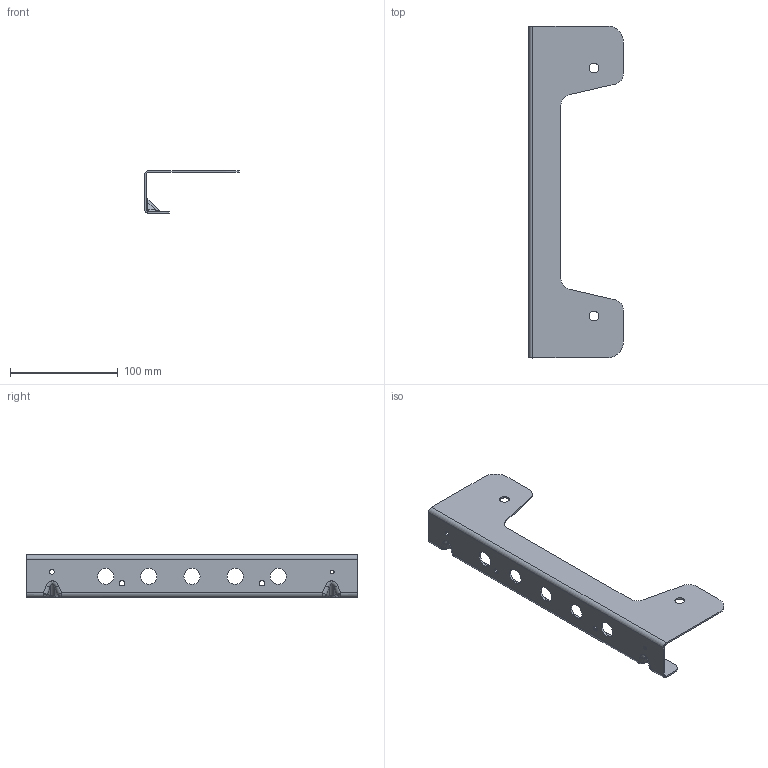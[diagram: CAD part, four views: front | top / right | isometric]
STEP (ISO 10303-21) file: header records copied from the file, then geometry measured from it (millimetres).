
FILE_DESCRIPTION(('CATIA V5 STEP Exchange'),'2;1');
FILE_NAME('E:\吉利商用车G3\10 2D\手动\钣金单件图纸\SHT0015288 高配前支撑钣金\SHT0015288---C.stp','2023-06-19T13:52:37+00:00',('none'),('none'),'CATIA Version 5 Release 20 GA (IN-10)','CATIA V5 STEP AP214','none');
FILE_SCHEMA(('AUTOMOTIVE_DESIGN { 1 0 10303 214 1 1 1 1 }'));
Length unit declared in the file: millimetre
Products named in the file (1): Part60
Bounding box: 88 x 308 x 39.5 mm (x, y, z)
Volume: 45659.4 mm3; surface area: 62865.2 mm2
Topology: 1 solids, 1 shells, 116 faces, 310 edges, 180 vertices
Faces by surface type: cylinder 68, plane 24, sphere 16, bspline 8
Entity records: 5080 total; most frequent: CARTESIAN_POINT 2474, ORIENTED_EDGE 588, DIRECTION 410, EDGE_CURVE 294, AXIS2_PLACEMENT_3D 187, VERTEX_POINT 180, EDGE_LOOP 138, VECTOR 127
